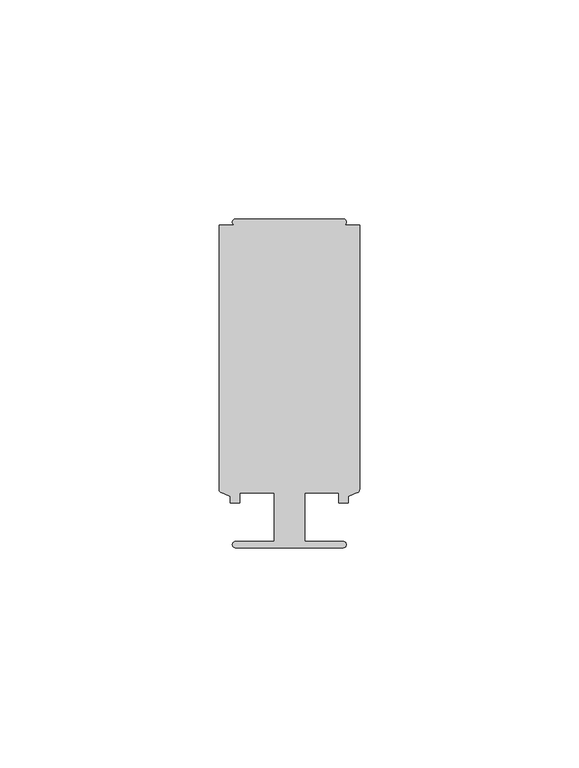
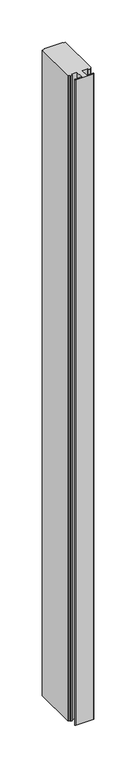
"""IFC4 building model written with IfcOpenShell, lengths in millimetres: member geometry, Прямоугольный импост : 2-AMG-1-Профиль 26Х75 Средний."""

from ifc_helpers import new_model, si_unit, point, frame, frame_2d, origin, place, context, project, spatial, polyline, circle_curve, trimmed, segment, composite_curve, outline, extrude, source, transform, mapped, element, save


def member_0cd1de56(model_context):
    return source(origin(), model_context, "Body", "SweptSolid", [
        extrude(outline(composite_curve([segment(polyline([(12.2976562, -37.5), (-12.3023438, -37.5)]), True, "CONTINUOUS"), segment(trimmed(circle_curve(frame_2d((-12.3023438, -36.8)), 0.7), [point((-12.3023438, -37.5))], [point((-12.3023438, -36.1))], False, "CARTESIAN"), True, "CONTINUOUS"), segment(polyline([(-12.3023438, -36.1), (-3.5023438, -36.1), (-3.5023438, -25.0), (-11.2993767, -25.0), (-11.2993767, -27.25), (-13.4493278, -27.25), (-13.4493278, -25.836597), (-15.5219415, -24.9333875)]), True, "CONTINUOUS"), segment(trimmed(circle_curve(frame_2d((-15.2023438, -24.2)), 0.8), [point((-15.5219415, -24.9333875))], [point((-16.0023438, -24.2))], False, "CARTESIAN"), True, "CONTINUOUS"), segment(polyline([(-16.0023438, -24.2), (-16.0023438, 36.1), (-12.3004766, 36.1)]), True, "CONTINUOUS"), segment(trimmed(circle_curve(frame_2d((-12.3004766, 36.8)), 0.7), [point((-12.3004766, 36.1))], [point((-12.3004766, 37.5))], False, "CARTESIAN"), True, "CONTINUOUS"), segment(polyline([(-12.3004766, 37.5), (12.295789, 37.5)]), True, "CONTINUOUS"), segment(trimmed(circle_curve(frame_2d((12.295789, 36.8)), 0.7), [point((12.295789, 37.5))], [point((12.295789, 36.1))], False, "CARTESIAN"), True, "CONTINUOUS"), segment(polyline([(12.295789, 36.1), (15.9976562, 36.1), (15.9976562, -24.2)]), True, "CONTINUOUS"), segment(trimmed(circle_curve(frame_2d((15.1976562, -24.2)), 0.8), [point((15.9976562, -24.2))], [point((15.5172539, -24.9333875))], False, "CARTESIAN"), True, "CONTINUOUS"), segment(polyline([(15.5172539, -24.9333875), (13.4446403, -25.836597), (13.4446403, -27.25), (11.2193767, -27.25), (11.2193767, -25.0), (3.4976562, -25.0), (3.4976562, -36.1), (12.2976562, -36.1)]), True, "CONTINUOUS"), segment(trimmed(circle_curve(frame_2d((12.2976562, -36.8)), 0.7), [point((12.2976562, -36.1))], [point((12.2976562, -37.5))], False, "CARTESIAN"), True, "CONTINUOUS")], self_intersect=False)), frame((0.0, 0.0, -943.7304863), z_axis=(0.0, 0.0, 1.0), x_axis=(1.0, 0.0, 0.0)), (0.0, 0.0, 1.0), 943.7304863),
    ])


if __name__ == "__main__":
    model = new_model("IFC4")
    model_context = context("Model", 3, world=origin())
    ifc_project = project(units=[si_unit("LENGTHUNIT", "METRE", prefix="MILLI")], contexts=[model_context])
    site = spatial("IfcSite", under=ifc_project)
    building = spatial("IfcBuilding", under=site)
    placement = place(None, origin())
    member_shape = member_0cd1de56(model_context)
    element("IfcMember", 1, ObjectType="Прямоугольный импост : 2-AMG-1-Профиль 26Х75 Средний", at=placement, inside=building, context=model_context, shape_type="MappedRepresentation", body=[
        mapped(member_shape, transform((0.0, 0.0, 0.0), x_axis=(1.0, 0.0, 0.0), y_axis=(0.0, 1.0, 0.0), z_axis=(0.0, 0.0, 1.0))),
    ])
    save(model, "model.ifc")
